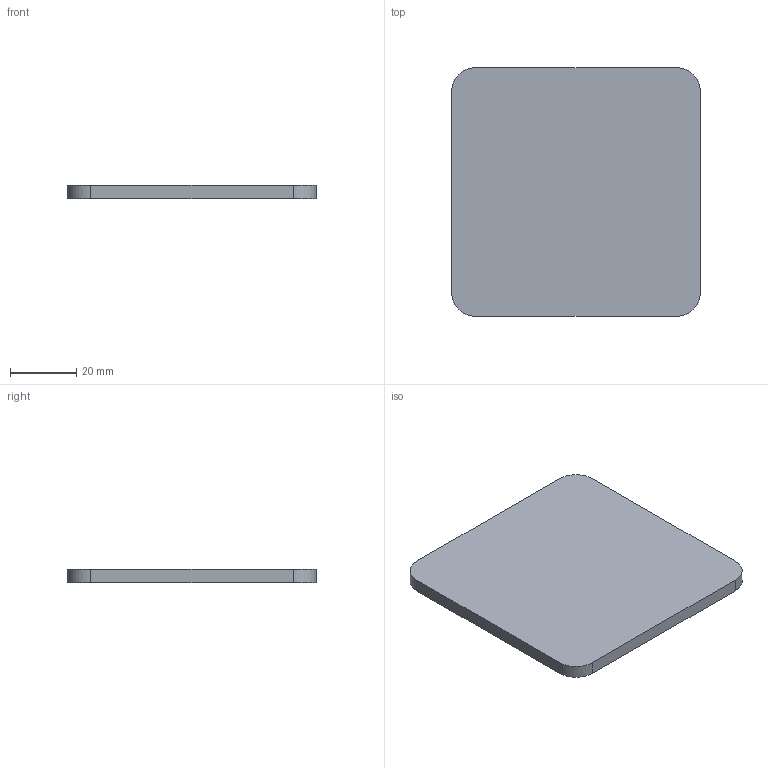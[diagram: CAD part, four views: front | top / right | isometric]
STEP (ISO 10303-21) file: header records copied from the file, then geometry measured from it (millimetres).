
FILE_DESCRIPTION(('Open CASCADE Model'),'2;1');
FILE_NAME('Open CASCADE Shape Model','2026-09-19T16:36:15',('Author'),( 'Open CASCADE'),'Open CASCADE STEP processor 7.8','Open CASCADE 7.8' ,'Unknown');
FILE_SCHEMA(('AUTOMOTIVE_DESIGN { 1 0 10303 214 1 1 1 1 }'));
Length unit declared in the file: millimetre
Products named in the file (1): Open CASCADE STEP translator 7.8 18
Bounding box: 75 x 75 x 4 mm (x, y, z)
Volume: 22331.8 mm3; surface area: 12317.8 mm2
Topology: 1 solids, 1 shells, 10 faces, 24 edges, 16 vertices
Faces by surface type: plane 6, cylinder 4
Entity records: 630 total; most frequent: CARTESIAN_POINT 123, DIRECTION 98, LINE 56, VECTOR 56, ORIENTED_EDGE 48, PCURVE 48, DEFINITIONAL_REPRESENTATION 48, EDGE_CURVE 24
